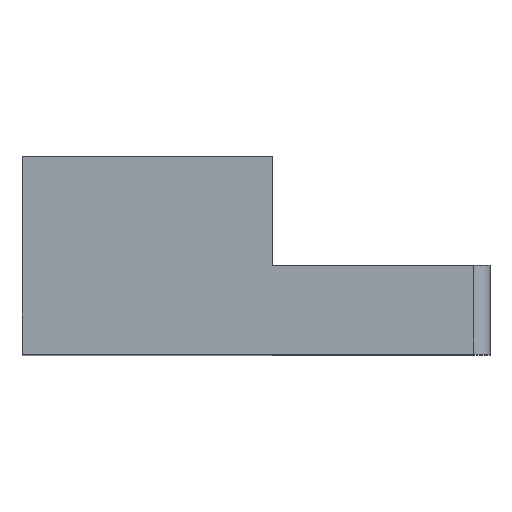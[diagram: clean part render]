
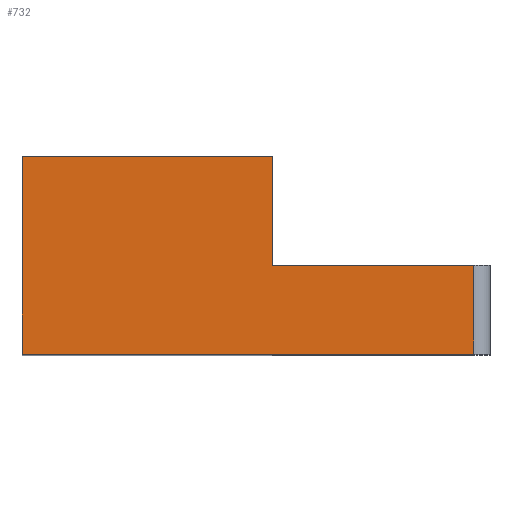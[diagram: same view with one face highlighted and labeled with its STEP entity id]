
A CAD part, top view. The second image highlights one B-rep face of the part: STEP entity #732.
In plain terms, the highlighted planar face has unit normal (0, 0, 1).
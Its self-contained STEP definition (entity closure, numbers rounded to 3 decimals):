
#92 = DIRECTION ( 'NONE',  ( 0., 1., 0. ) ) ;
#93 = CARTESIAN_POINT ( 'NONE',  ( 6.6, 0., 12.6 ) ) ;
#94 = LINE ( 'NONE', #93, #610 ) ;
#116 = DIRECTION ( 'NONE',  ( -1., 0., 0. ) ) ;
#117 = DIRECTION ( 'NONE',  ( 0., 0., -1. ) ) ;
#118 = CARTESIAN_POINT ( 'NONE',  ( 0., 0., 12.6 ) ) ;
#119 = PLANE ( 'NONE',  #568 ) ;
#132 = DIRECTION ( 'NONE',  ( -1., 0., 0. ) ) ;
#133 = CARTESIAN_POINT ( 'NONE',  ( -7.1, 6., 12.6 ) ) ;
#134 = LINE ( 'NONE', #133, #576 ) ;
#135 = DIRECTION ( 'NONE',  ( 0., -1., 0. ) ) ;
#136 = CARTESIAN_POINT ( 'NONE',  ( -7.1, 0., 12.6 ) ) ;
#137 = LINE ( 'NONE', #136, #580 ) ;
#138 = DIRECTION ( 'NONE',  ( 0., 1., 0. ) ) ;
#139 = CARTESIAN_POINT ( 'NONE',  ( 0.5, 6., 12.6 ) ) ;
#140 = LINE ( 'NONE', #139, #577 ) ;
#147 = DIRECTION ( 'NONE',  ( 1., 0., 0. ) ) ;
#148 = CARTESIAN_POINT ( 'NONE',  ( 7.1, 0., 12.6 ) ) ;
#149 = LINE ( 'NONE', #148, #599 ) ;
#199 = DIRECTION ( 'NONE',  ( -1., 0., 0. ) ) ;
#200 = CARTESIAN_POINT ( 'NONE',  ( 0.5, 2.7, 12.6 ) ) ;
#201 = LINE ( 'NONE', #200, #532 ) ;
#294 = CARTESIAN_POINT ( 'NONE',  ( 0.5, 6., 12.6 ) ) ;
#299 = CARTESIAN_POINT ( 'NONE',  ( -7.1, 6., 12.6 ) ) ;
#306 = CARTESIAN_POINT ( 'NONE',  ( -7.1, 0., 12.6 ) ) ;
#310 = CARTESIAN_POINT ( 'NONE',  ( 6.6, 2.7, 12.6 ) ) ;
#319 = CARTESIAN_POINT ( 'NONE',  ( 0.5, 2.7, 12.6 ) ) ;
#324 = CARTESIAN_POINT ( 'NONE',  ( 6.6, 0., 12.6 ) ) ;
#342 = EDGE_LOOP ( 'NONE', ( #390, #387, #391, #381, #385, #458 ) ) ;
#381 = ORIENTED_EDGE ( 'NONE', *, *, #725, .T. ) ;
#385 = ORIENTED_EDGE ( 'NONE', *, *, #727, .T. ) ;
#387 = ORIENTED_EDGE ( 'NONE', *, *, #739, .T. ) ;
#390 = ORIENTED_EDGE ( 'NONE', *, *, #722, .T. ) ;
#391 = ORIENTED_EDGE ( 'NONE', *, *, #705, .T. ) ;
#440 = VERTEX_POINT ( 'NONE', #324 ) ;
#448 = VERTEX_POINT ( 'NONE', #319 ) ;
#458 = ORIENTED_EDGE ( 'NONE', *, *, #726, .T. ) ;
#468 = VERTEX_POINT ( 'NONE', #310 ) ;
#475 = VERTEX_POINT ( 'NONE', #306 ) ;
#486 = VERTEX_POINT ( 'NONE', #299 ) ;
#499 = VERTEX_POINT ( 'NONE', #294 ) ;
#531 = FACE_OUTER_BOUND ( 'NONE', #342, .T. ) ;
#532 = VECTOR ( 'NONE', #199, 1000. ) ;
#568 = AXIS2_PLACEMENT_3D ( 'NONE', #118, #117, #116 ) ;
#576 = VECTOR ( 'NONE', #132, 1000. ) ;
#577 = VECTOR ( 'NONE', #138, 1000. ) ;
#580 = VECTOR ( 'NONE', #135, 1000. ) ;
#599 = VECTOR ( 'NONE', #147, 1000. ) ;
#610 = VECTOR ( 'NONE', #92, 1000. ) ;
#705 = EDGE_CURVE ( 'NONE', #468, #448, #201, .T. ) ;
#722 = EDGE_CURVE ( 'NONE', #475, #440, #149, .T. ) ;
#725 = EDGE_CURVE ( 'NONE', #448, #499, #140, .T. ) ;
#726 = EDGE_CURVE ( 'NONE', #486, #475, #137, .T. ) ;
#727 = EDGE_CURVE ( 'NONE', #499, #486, #134, .T. ) ;
#732 = ADVANCED_FACE ( 'NONE', ( #531 ), #119, .F. ) ;
#739 = EDGE_CURVE ( 'NONE', #440, #468, #94, .T. ) ;
